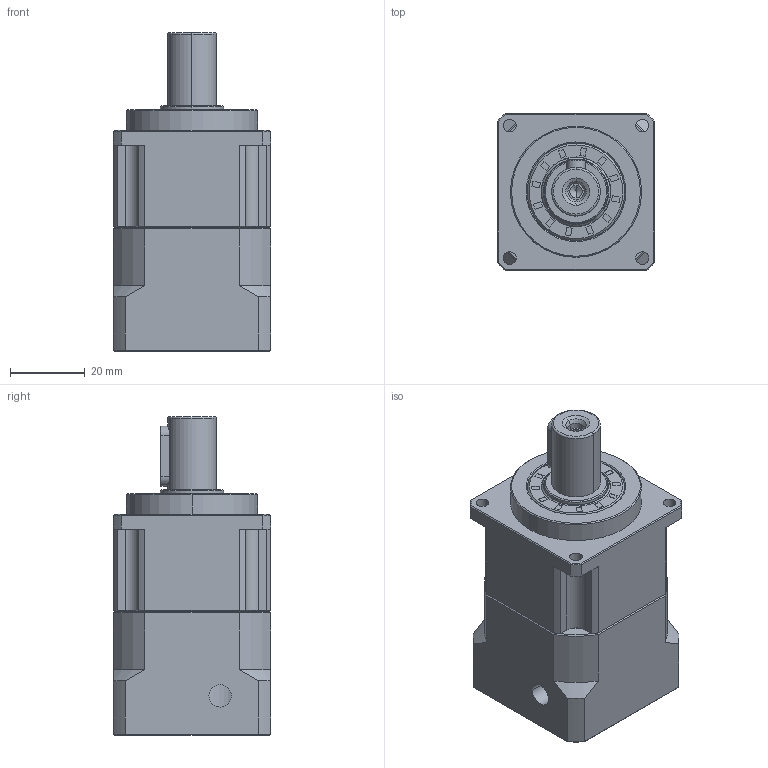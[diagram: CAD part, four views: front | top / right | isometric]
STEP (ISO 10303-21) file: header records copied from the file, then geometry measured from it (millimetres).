
FILE_DESCRIPTION (( 'STEP AP214' ), '1' );
FILE_NAME ('ZPB042-D13-L1-P1-8-30-46-M4.step', '2024-04-10T05:31:03', ( 'Windows 蚚誧' ), ( 'Organization' ), 'SwSTEP 2.0', 'SolidWorks 2016', '' );
FILE_SCHEMA (( 'AUTOMOTIVE_DESIGN' ));
Length unit declared in the file: millimetre
Products named in the file (1): ZPB042-D13-L1-P1-8-30-46-M4
Bounding box: 42 x 42 x 85 mm (x, y, z)
Volume: 80947.9 mm3; surface area: 35550.3 mm2
Topology: 10 solids, 10 shells, 1389 faces, 3617 edges, 2324 vertices
Faces by surface type: plane 632, bspline 337, cylinder 209, cone 205, torus 6
Entity records: 71696 total; most frequent: CARTESIAN_POINT 24242, ORIENTED_EDGE 7162, DIRECTION 5646, EDGE_CURVE 3581, VERTEX_POINT 2324, VECTOR 2158, LINE 2158, AXIS2_PLACEMENT_3D 1744
